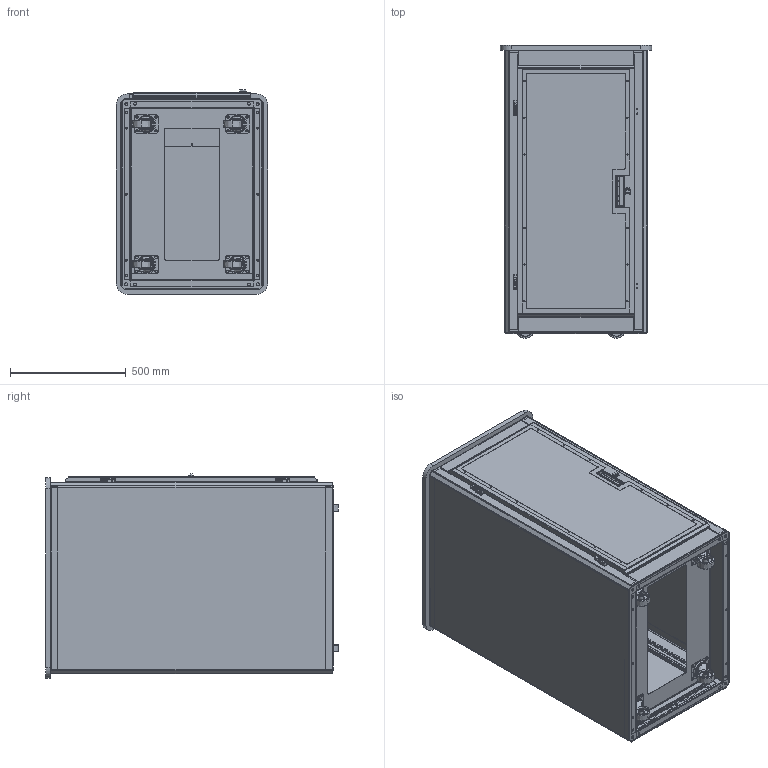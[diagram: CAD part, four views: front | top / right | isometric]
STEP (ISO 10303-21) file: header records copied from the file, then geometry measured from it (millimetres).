
FILE_DESCRIPTION((''),'2;1');
FILE_NAME('WRK-24MDK_ASM','2015-08-06T',('rpiatt'),('Middle Atlantic Products'),'PRO/ENGINEER BY PARAMETRIC TECHNOLOGY CORPORATION, 2014310','PRO/ENGINEER BY PARAMETRIC TECHNOLOGY CORPORATION, 2014310','');
FILE_SCHEMA(('CONFIG_CONTROL_DESIGN'));
Length unit declared in the file: inch
Products named in the file (61): BODY_59; BODY_58; BODY_57; BODY_56; BODY_55; BODY_53; BODY_52; BODY_51; BODY_50; BODY_48; BODY_47; BODY_46; BODY_45; BODY_43; BODY_42; BODY_41; BODY_40; BODY_38; BODY_35; BODY_34; BODY_33; BODY_31; BODY_30; BODY_29; BODY_27; BODY_26; BODY_25; BODY_24; BODY_23; BODY_22; BODY_21; BODY_20; BODY_19; BODY_18; LUMP_98; LUMP_210; LUMP_259; LUMP_333; LUMP_499; LUMP_770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
Assembly tree (60 placements, depth 3):
  WRK-24MDK_ASM
    BODY_59
    BODY_58
    BODY_57
    BODY_56
    BODY_55
    BODY_53
    BODY_52
    BODY_51
    BODY_50
    BODY_48
    BODY_47
    BODY_46
    BODY_45
    BODY_43
    BODY_42
    BODY_41
    BODY_40
    BODY_38
    BODY_35
    BODY_34
    BODY_33
    BODY_31
    BODY_30
    BODY_29
    BODY_27
    BODY_26
    BODY_25
    BODY_24
    BODY_23
    BODY_22
    BODY_21
    BODY_20
    BODY_19
    BODY_18
    BODY_16_ASM
      LUMP_98
      LUMP_210
      LUMP_259
      LUMP_333
      LUMP_499
      LUMP_770
      LUMP_1333
    BODY_15_ASM
      LUMP_95
      LUMP_208
      LUMP_256
      LUMP_327
      LUMP_489
      LUMP_750
      LUMP_1292
    BODY_14
    BODY_13
    BODY_12
    BODY_11
    BODY_10
    BODY_9
    BODY_8
    BODY_6
    BODY_4
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Bounding box: 654.08 x 1266.72 x 885.29 mm (x, y, z)
Volume: 22457567.5 mm3; surface area: 12002500.5 mm2
Topology: 58 solids, 60 shells, 3668 faces, 9112 edges, 5553 vertices
Faces by surface type: cylinder 1479, plane 1473, torus 298, cone 172, bspline 144, sphere 90, extrusion 12
Entity records: 116911 total; most frequent: CARTESIAN_POINT 25168, DIRECTION 20088, ORIENTED_EDGE 18032, EDGE_CURVE 9016, AXIS2_PLACEMENT_3D 7719, VERTEX_POINT 5553, VECTOR 4650, LINE 4638
